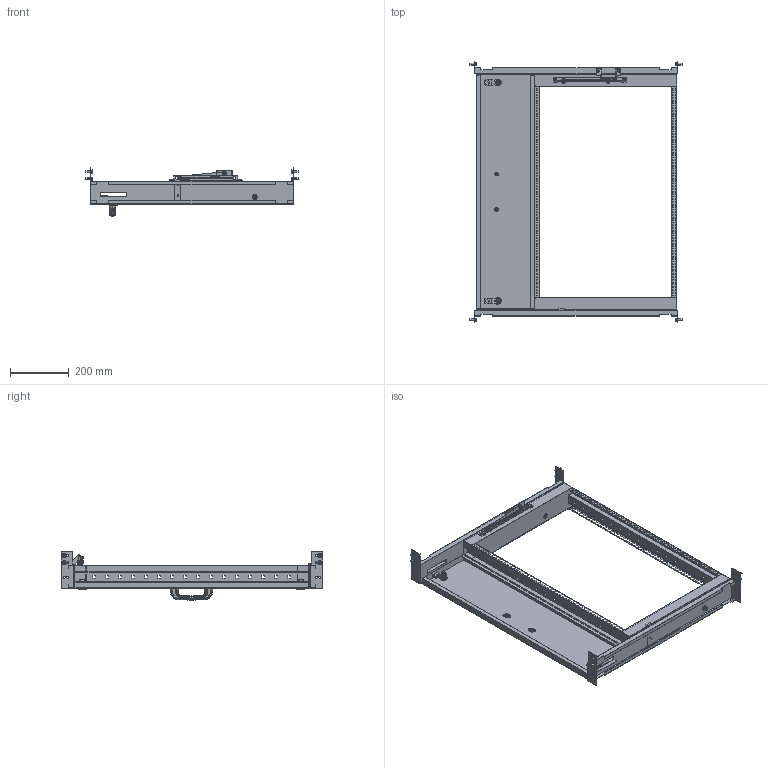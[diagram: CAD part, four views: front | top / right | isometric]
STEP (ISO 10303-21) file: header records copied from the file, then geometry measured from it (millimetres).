
FILE_DESCRIPTION(('Open CASCADE Model'),'2;1');
FILE_NAME('Open CASCADE Shape Model','2025-03-24T10:15:03',('Author'),( 'Open CASCADE'),'Open CASCADE STEP processor 7.8','Open CASCADE 7.8' ,'Unknown');
FILE_SCHEMA(('AUTOMOTIVE_DESIGN { 1 0 10303 214 1 1 1 1 }'));
Length unit declared in the file: millimetre
Products named in the file (32): Compound1; Compound2; Solid1; Solid2; Compound3; Solid3; Solid4; Solid5; Solid6; Solid7; Solid8; Solid9; Solid10; Solid11; Solid12; Solid13; Solid14; Solid15; Solid16; Solid17; Compound4; Solid18; Solid19; Solid20; Solid21; Compound5; Solid22; Solid23; Solid24; Solid25; Solid26; Solid27
Assembly tree (50 placements, depth 3):
  Compound1
    Compound2
      Solid1
      Solid2
    Compound3
      Solid3
      Solid2
    Solid4  x2
    Solid5  x2
    Solid6
    Solid7
    Solid8
    Solid9
    Solid10
    Solid11  x2
    Solid12  x4
    Solid13  x8
    Solid14
    Solid15
    Solid16  x2
    Solid17  x2
    Compound4
      Solid18
      Solid19
    Solid20
    Solid21
    Compound5
      Solid22  x2
      Solid23
      Solid24  x2
      Solid25
      Solid26  x2
      Solid27
Bounding box: 726 x 894.5 x 165 mm (x, y, z)
Volume: 1490427.5 mm3; surface area: 1839821.7 mm2
Topology: 48 solids, 66 shells, 4463 faces, 12174 edges, 7801 vertices
Faces by surface type: plane 2376, cylinder 724, bspline 670, cone 439, torus 176, sphere 78
Entity records: 118744 total; most frequent: CARTESIAN_POINT 47298, ORIENTED_EDGE 15816, DIRECTION 12816, EDGE_CURVE 8078, VERTEX_POINT 5175, LINE 4564, VECTOR 4564, AXIS2_PLACEMENT_3D 4126
